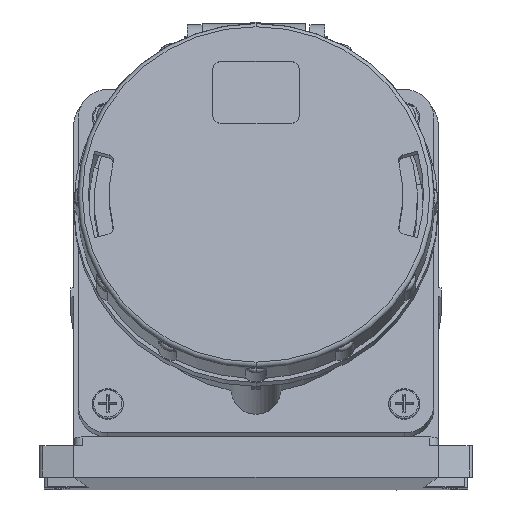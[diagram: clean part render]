
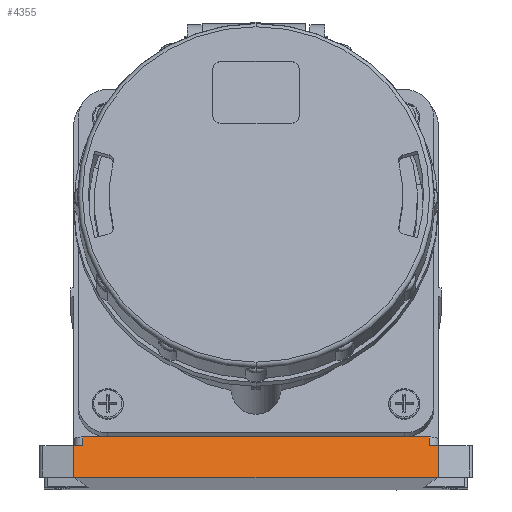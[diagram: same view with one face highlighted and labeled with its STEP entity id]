
A CAD part, top view. The second image highlights one B-rep face of the part: STEP entity #4355.
In plain terms, the highlighted planar face has unit normal (0, 0.26, 0.966).
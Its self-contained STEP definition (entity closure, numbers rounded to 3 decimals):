
#642 = VECTOR ( 'NONE', #10080, 1000. ) ;
#650 = VECTOR ( 'NONE', #10062, 1000. ) ;
#653 = VECTOR ( 'NONE', #10074, 1000. ) ;
#654 = VECTOR ( 'NONE', #10071, 1000. ) ;
#668 = VECTOR ( 'NONE', #10077, 1000. ) ;
#673 = VECTOR ( 'NONE', #10068, 1000. ) ;
#1956 = EDGE_CURVE ( 'NONE', #5247, #5060, #8168, .T. ) ;
#1964 = EDGE_CURVE ( 'NONE', #5384, #5148, #8195, .T. ) ;
#2115 = VERTEX_POINT ( 'NONE', #8930 ) ;
#2117 = VERTEX_POINT ( 'NONE', #8932 ) ;
#2118 = VERTEX_POINT ( 'NONE', #8933 ) ;
#2150 = VERTEX_POINT ( 'NONE', #8965 ) ;
#2748 = EDGE_LOOP ( 'NONE', ( #3043, #3044, #3041, #3045, #3046, #3047, #3049, #3048 ) ) ;
#2926 = EDGE_CURVE ( 'NONE', #2117, #2150, #10060, .T. ) ;
#2928 = EDGE_CURVE ( 'NONE', #2150, #5384, #10066, .T. ) ;
#2929 = EDGE_CURVE ( 'NONE', #5060, #5148, #10069, .T. ) ;
#2930 = EDGE_CURVE ( 'NONE', #5247, #2118, #10072, .T. ) ;
#2931 = EDGE_CURVE ( 'NONE', #2118, #2115, #10075, .T. ) ;
#2932 = EDGE_CURVE ( 'NONE', #2115, #2117, #10078, .T. ) ;
#3041 = ORIENTED_EDGE ( 'NONE', *, *, #1964, .T. ) ;
#3043 = ORIENTED_EDGE ( 'NONE', *, *, #2926, .T. ) ;
#3044 = ORIENTED_EDGE ( 'NONE', *, *, #2928, .T. ) ;
#3045 = ORIENTED_EDGE ( 'NONE', *, *, #2929, .F. ) ;
#3046 = ORIENTED_EDGE ( 'NONE', *, *, #1956, .F. ) ;
#3047 = ORIENTED_EDGE ( 'NONE', *, *, #2930, .T. ) ;
#3048 = ORIENTED_EDGE ( 'NONE', *, *, #2932, .T. ) ;
#3049 = ORIENTED_EDGE ( 'NONE', *, *, #2931, .T. ) ;
#4355 = ADVANCED_FACE ( 'NONE', ( #11802 ), #12052, .F. ) ;
#5060 = VERTEX_POINT ( 'NONE', #14185 ) ;
#5148 = VERTEX_POINT ( 'NONE', #14273 ) ;
#5247 = VERTEX_POINT ( 'NONE', #14372 ) ;
#5384 = VERTEX_POINT ( 'NONE', #14509 ) ;
#8168 = LINE ( 'NONE', #8169, #15009 ) ;
#8169 = CARTESIAN_POINT ( 'NONE',  ( 61.5, 0., 0. ) ) ;
#8170 = DIRECTION ( 'NONE',  ( -1., 0., 0. ) ) ;
#8195 = LINE ( 'NONE', #8196, #14955 ) ;
#8196 = CARTESIAN_POINT ( 'NONE',  ( 61.5, 10.566, -2.845 ) ) ;
#8197 = DIRECTION ( 'NONE',  ( -1., 0., 0. ) ) ;
#8930 = CARTESIAN_POINT ( 'NONE',  ( 58.5, 10.566, -2.845 ) ) ;
#8932 = CARTESIAN_POINT ( 'NONE',  ( 58.5, 13.519, -3.64 ) ) ;
#8933 = CARTESIAN_POINT ( 'NONE',  ( 61.5, 10.566, -2.845 ) ) ;
#8965 = CARTESIAN_POINT ( 'NONE',  ( -58.5, 13.519, -3.64 ) ) ;
#10060 = LINE ( 'NONE', #10061, #650 ) ;
#10061 = CARTESIAN_POINT ( 'NONE',  ( 61.5, 13.519, -3.64 ) ) ;
#10062 = DIRECTION ( 'NONE',  ( -1., 0., 0. ) ) ;
#10066 = LINE ( 'NONE', #10067, #673 ) ;
#10067 = CARTESIAN_POINT ( 'NONE',  ( -58.5, 10.566, -2.845 ) ) ;
#10068 = DIRECTION ( 'NONE',  ( 0., -0.966, 0.26 ) ) ;
#10069 = LINE ( 'NONE', #10070, #654 ) ;
#10070 = CARTESIAN_POINT ( 'NONE',  ( -61.5, 0., 0. ) ) ;
#10071 = DIRECTION ( 'NONE',  ( 0., 0.966, -0.26 ) ) ;
#10072 = LINE ( 'NONE', #10073, #653 ) ;
#10073 = CARTESIAN_POINT ( 'NONE',  ( 61.5, 0., 0. ) ) ;
#10074 = DIRECTION ( 'NONE',  ( 0., 0.966, -0.26 ) ) ;
#10075 = LINE ( 'NONE', #10076, #668 ) ;
#10076 = CARTESIAN_POINT ( 'NONE',  ( 61.5, 10.566, -2.845 ) ) ;
#10077 = DIRECTION ( 'NONE',  ( -1., 0., 0. ) ) ;
#10078 = LINE ( 'NONE', #10079, #642 ) ;
#10079 = CARTESIAN_POINT ( 'NONE',  ( 58.5, 0., 0. ) ) ;
#10080 = DIRECTION ( 'NONE',  ( 0., 0.966, -0.26 ) ) ;
#11802 = FACE_OUTER_BOUND ( 'NONE', #2748, .T. ) ;
#11805 = AXIS2_PLACEMENT_3D ( 'NONE', #12053, #12054, #12055 ) ;
#12052 = PLANE ( 'NONE',  #11805 ) ;
#12053 = CARTESIAN_POINT ( 'NONE',  ( 61.5, 0., 0. ) ) ;
#12054 = DIRECTION ( 'NONE',  ( 0., -0.26, -0.966 ) ) ;
#12055 = DIRECTION ( 'NONE',  ( 0., 0.966, -0.26 ) ) ;
#14185 = CARTESIAN_POINT ( 'NONE',  ( -61.5, 0., 0. ) ) ;
#14273 = CARTESIAN_POINT ( 'NONE',  ( -61.5, 10.566, -2.845 ) ) ;
#14372 = CARTESIAN_POINT ( 'NONE',  ( 61.5, 0., 0. ) ) ;
#14509 = CARTESIAN_POINT ( 'NONE',  ( -58.5, 10.566, -2.845 ) ) ;
#14955 = VECTOR ( 'NONE', #8197, 1000. ) ;
#15009 = VECTOR ( 'NONE', #8170, 1000. ) ;
